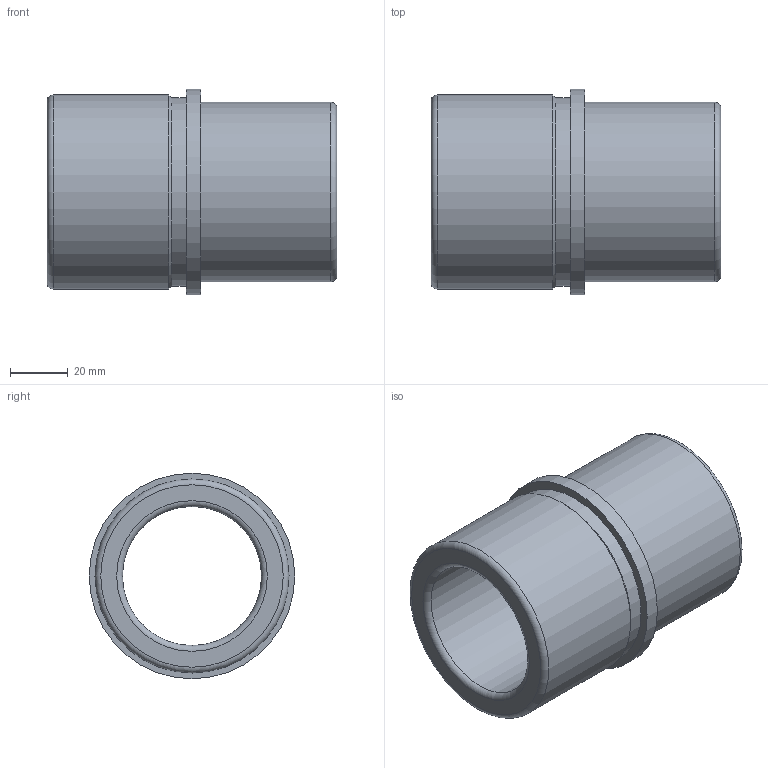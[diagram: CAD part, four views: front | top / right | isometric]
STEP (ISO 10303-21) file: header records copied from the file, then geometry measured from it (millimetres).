
FILE_DESCRIPTION( ( 'STEP AP214' ), '1' );
FILE_NAME( 'p:/temp/worker_63/temp/exporttempdir_828_300_gH0vP/format_1/WZ - 4053 42 x 100 - 48.stp', '2020-12-06T13:44:33', ( 'License CC BY-ND 4.0' ), ( 'CADENAS' ), ' ', 'PARTsolutions', ' ' );
FILE_SCHEMA( ( 'AUTOMOTIVE_DESIGN { 1 0 10303 214 1 1 1 1 }' ) );
Length unit declared in the file: millimetre
Products named in the file (1): _WZ - 4053 42 x 100 - 48
Bounding box: 100 x 71 x 71 mm (x, y, z)
Volume: 148220.2 mm3; surface area: 39404 mm2
Topology: 1 solids, 1 shells, 14 faces, 24 edges, 14 vertices
Faces by surface type: cylinder 5, plane 4, torus 4, cone 1
Full cylindrical faces by diameter (mm): 48 x1, 62 x1, 65 x1, 67 x1, 71 x1
Entity records: 416 total; most frequent: DIRECTION 58, CARTESIAN_POINT 43, AXIS2_PLACEMENT_3D 29, EDGE_LOOP 28, ORIENTED_EDGE 28, FACE_OUTER_BOUND 23, STYLED_ITEM 14, PRESENTATION_STYLE_ASSIGNMENT 14
